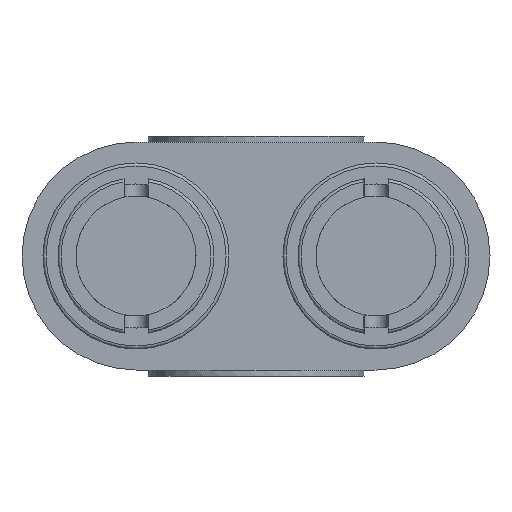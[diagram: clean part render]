
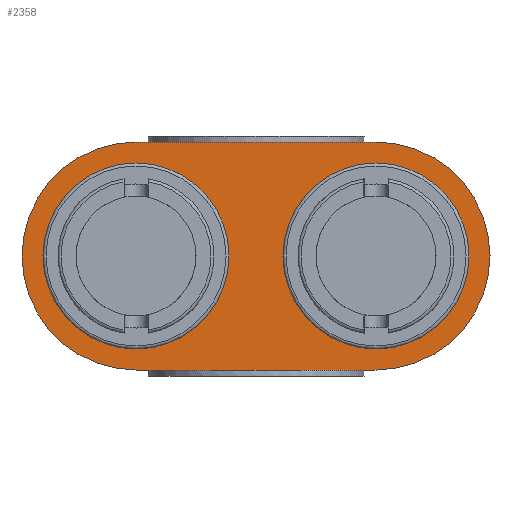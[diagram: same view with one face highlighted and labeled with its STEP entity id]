
A CAD part, front view. The second image highlights one B-rep face of the part: STEP entity #2358.
In plain terms, the highlighted planar face has unit normal (0, -1, 0).
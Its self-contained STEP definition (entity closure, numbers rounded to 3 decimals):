
#149=CIRCLE('',#2513,3.8);
#164=CIRCLE('',#2540,3.1);
#165=CIRCLE('',#2541,3.8);
#166=CIRCLE('',#2542,3.1);
#284=LINE('',#3554,#460);
#306=LINE('',#3694,#482);
#460=VECTOR('',#2823,1000.);
#482=VECTOR('',#2903,1000.);
#710=ORIENTED_EDGE('',*,*,#1402,.F.);
#711=ORIENTED_EDGE('',*,*,#1403,.T.);
#712=ORIENTED_EDGE('',*,*,#1357,.F.);
#713=ORIENTED_EDGE('',*,*,#1353,.F.);
#714=ORIENTED_EDGE('',*,*,#1404,.T.);
#715=ORIENTED_EDGE('',*,*,#1405,.T.);
#1353=EDGE_CURVE('',#1702,#1703,#284,.T.);
#1357=EDGE_CURVE('',#1703,#1704,#149,.T.);
#1402=EDGE_CURVE('',#1739,#1739,#164,.F.);
#1403=EDGE_CURVE('',#1740,#1704,#306,.T.);
#1404=EDGE_CURVE('',#1702,#1740,#165,.T.);
#1405=EDGE_CURVE('',#1741,#1741,#166,.F.);
#1702=VERTEX_POINT('',#3553);
#1703=VERTEX_POINT('',#3555);
#1704=VERTEX_POINT('',#3560);
#1739=VERTEX_POINT('',#3693);
#1740=VERTEX_POINT('',#3695);
#1741=VERTEX_POINT('',#3698);
#1948=EDGE_LOOP('',(#710));
#1949=EDGE_LOOP('',(#711,#712,#713,#714));
#1950=EDGE_LOOP('',(#715));
#2120=FACE_BOUND('',#1948,.T.);
#2121=FACE_BOUND('',#1949,.T.);
#2122=FACE_BOUND('',#1950,.T.);
#2280=PLANE('',#2539);
#2358=ADVANCED_FACE('',(#2120,#2121,#2122),#2280,.F.);
#2513=AXIS2_PLACEMENT_3D('',#3561,#2829,#2830);
#2539=AXIS2_PLACEMENT_3D('',#3691,#2899,#2900);
#2540=AXIS2_PLACEMENT_3D('',#3692,#2901,#2902);
#2541=AXIS2_PLACEMENT_3D('',#3696,#2904,#2905);
#2542=AXIS2_PLACEMENT_3D('',#3697,#2906,#2907);
#2823=DIRECTION('',(1.,0.,0.));
#2829=DIRECTION('',(0.,1.,0.));
#2830=DIRECTION('',(-1.,0.,0.));
#2899=DIRECTION('',(0.,1.,0.));
#2900=DIRECTION('',(0.,0.,1.));
#2901=DIRECTION('',(0.,1.,0.));
#2902=DIRECTION('',(0.,0.,1.));
#2903=DIRECTION('',(1.,0.,0.));
#2904=DIRECTION('',(0.,-1.,0.));
#2905=DIRECTION('',(1.,0.,0.));
#2906=DIRECTION('',(0.,-1.,0.));
#2907=DIRECTION('',(0.,0.,1.));
#3553=CARTESIAN_POINT('',(-4.,-8.,3.8));
#3554=CARTESIAN_POINT('',(0.,-8.,3.8));
#3555=CARTESIAN_POINT('',(4.,-8.,3.8));
#3560=CARTESIAN_POINT('',(4.,-8.,-3.8));
#3561=CARTESIAN_POINT('',(4.,-8.,0.));
#3691=CARTESIAN_POINT('',(4.,-8.,0.));
#3692=CARTESIAN_POINT('',(4.,-8.,0.));
#3693=CARTESIAN_POINT('',(4.,-8.,3.1));
#3694=CARTESIAN_POINT('',(0.,-8.,-3.8));
#3695=CARTESIAN_POINT('',(-4.,-8.,-3.8));
#3696=CARTESIAN_POINT('',(-4.,-8.,0.));
#3697=CARTESIAN_POINT('',(-4.,-8.,0.));
#3698=CARTESIAN_POINT('',(-4.,-8.,3.1));
